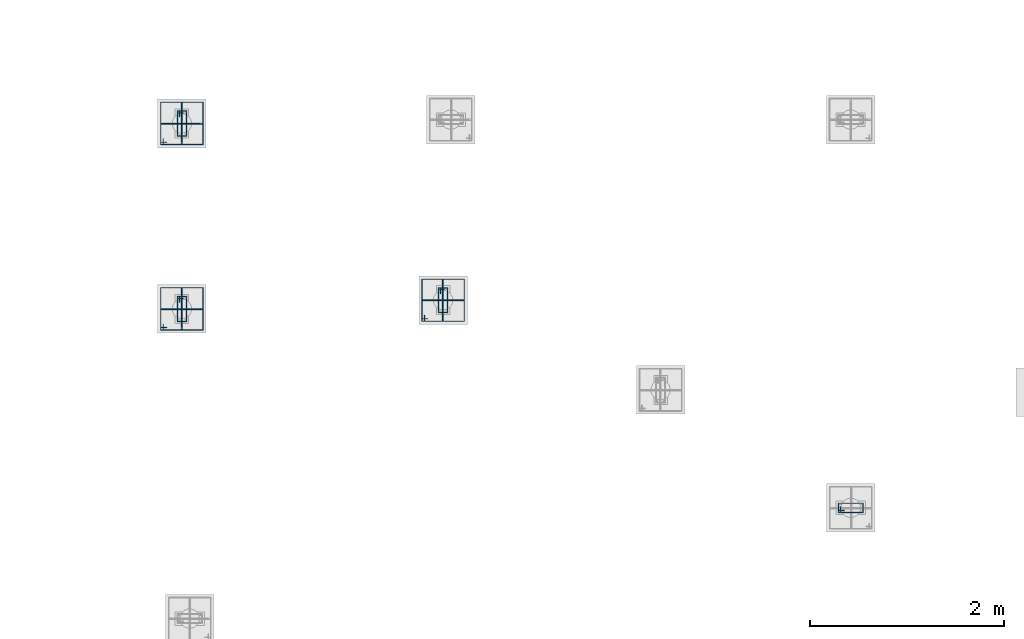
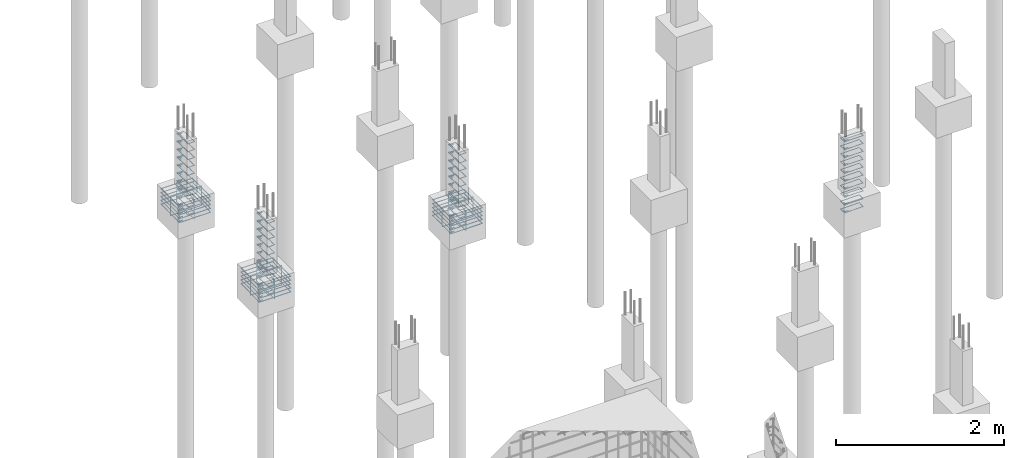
# One storey, part 80 of 119: 61 reinforcing bars.
"""IFC4 building model written with IfcOpenShell, lengths in centimetres."""

from ifc_helpers import new_model, entity, si_unit, derived_unit, frame, origin_with_axes, place, context, project, spatial, source, transform, mapped, element, save


model = new_model("IFC4")

# Units and contexts
model_context = context("Model", 3, precision=1e-05, world=origin_with_axes(), identifier="Body")
ifc_project = project(units=[si_unit("LENGTHUNIT", "METRE", prefix="CENTI"), si_unit("VOLUMEUNIT", "CUBIC_METRE"), si_unit("AREAUNIT", "SQUARE_METRE"), si_unit("POWERUNIT", "WATT"), si_unit("LUMINOUSFLUXUNIT", "LUMEN"), si_unit("ELECTRICCURRENTUNIT", "AMPERE"), si_unit("PRESSUREUNIT", "PASCAL", prefix="KILO"), si_unit("MASSUNIT", "GRAM", prefix="KILO"), si_unit("PLANEANGLEUNIT", "RADIAN"), derived_unit("VOLUMETRICFLOWRATEUNIT", [(si_unit("LENGTHUNIT", "METRE"), 3), (si_unit("TIMEUNIT", "SECOND"), -1)])], contexts=[model_context])

# Site, building, storey
site_placement = place(None, frame((-4000.0, 0.0, 0.0), z_axis=(0.0, 0.0, 1.0), x_axis=(1.0, 0.0, 0.0)))
site = spatial("IfcSite", under=ifc_project, at=site_placement, Name="PADRÃO")
building_placement = place(site_placement, frame((0.0, 0.0, -14.0)))
building = spatial("IfcBuilding", under=site, at=building_placement, Name="CRECHE PRÉ-ESCOLA TIPO 2")
storey_placement = place(building_placement, origin_with_axes())
storey = spatial("IfcBuildingStorey", under=building, at=storey_placement, Name="FUNDAÇÃO", CompositionType="ELEMENT", Elevation=-14.0)

# Reinforcing bars
shared_shape_1 = source(origin_with_axes(), model_context, "Body", "AdvancedSweptSolid", [
    entity("IfcSweptDiskSolid", entity("IfcCompositeCurve", [entity("IfcCompositeCurveSegment", "CONTINUOUS", True, entity("IfcPolyline", [entity("IfcCartesianPoint", [4.25, 21.75, 0.0]), entity("IfcCartesianPoint", [4.25, 27.75, 0.0])])), entity("IfcCompositeCurveSegment", "CONTINUOUS", True, entity("IfcPolyline", [entity("IfcCartesianPoint", [4.25, 27.75, 0.0]), entity("IfcCartesianPoint", [2.25, 27.75, 0.0])])), entity("IfcCompositeCurveSegment", "CONTINUOUS", True, entity("IfcPolyline", [entity("IfcCartesianPoint", [2.25, 27.75, 0.0]), entity("IfcCartesianPoint", [2.25, 2.25, 0.0])])), entity("IfcCompositeCurveSegment", "CONTINUOUS", True, entity("IfcPolyline", [entity("IfcCartesianPoint", [2.25, 2.25, 0.0]), entity("IfcCartesianPoint", [11.75, 2.25, 0.0])])), entity("IfcCompositeCurveSegment", "CONTINUOUS", True, entity("IfcPolyline", [entity("IfcCartesianPoint", [11.75, 2.25, 0.0]), entity("IfcCartesianPoint", [11.75, 27.75, -0.5])])), entity("IfcCompositeCurveSegment", "CONTINUOUS", True, entity("IfcPolyline", [entity("IfcCartesianPoint", [11.75, 27.75, -0.5]), entity("IfcCartesianPoint", [2.25, 27.75, -0.5])])), entity("IfcCompositeCurveSegment", "CONTINUOUS", True, entity("IfcPolyline", [entity("IfcCartesianPoint", [2.25, 27.75, -0.5]), entity("IfcCartesianPoint", [2.25, 25.75, -0.5])])), entity("IfcCompositeCurveSegment", "CONTINUOUS", True, entity("IfcPolyline", [entity("IfcCartesianPoint", [2.25, 25.75, -0.5]), entity("IfcCartesianPoint", [8.25, 25.75, -0.5])]))], False), 0.25),
])
for number, where, z_axis, x_axis, name in (
    (1, (2247.49, 1008.51, -97.75), (0.0, 0.0, 1.0), (1.0, 0.0, 0.0), "P121 - Estribo"),
    (2, (2247.49, 1008.51, -74.75), (0.0, 0.0, 1.0), (1.0, 0.0, 0.0), "P121 - Estribo"),
    (3, (2247.49, 1008.51, -5.75), (0.0, 0.0, 1.0), (1.0, 0.0, 0.0), "P121 - Estribo"),
    (4, (2247.49, 1008.51, -63.25), (0.0, 0.0, 1.0), (1.0, 0.0, 0.0), "P121 - Estribo"),
    (5, (2247.49, 1008.51, -109.25), (0.0, 0.0, 1.0), (1.0, 0.0, 0.0), "P121 - Estribo"),
    (6, (2247.49, 1008.51, -86.25), (0.0, 0.0, 1.0), (1.0, 0.0, 0.0), "P121 - Estribo"),
    (7, (2247.49, 1008.51, -51.75), (0.0, 0.0, 1.0), (1.0, 0.0, 0.0), "P121 - Estribo"),
    (8, (2247.49, 1008.51, -17.25), (0.0, 0.0, 1.0), (1.0, 0.0, 0.0), "P121 - Estribo"),
    (9, (2247.49, 1008.51, -40.25), (0.0, 0.0, 1.0), (1.0, 0.0, 0.0), "P121 - Estribo"),
    (10, (2247.49, 1008.51, -28.75), (0.0, 0.0, 1.0), (1.0, 0.0, 0.0), "P121 - Estribo"),
):
    element("IfcReinforcingBar", number, at=place(storey_placement, frame(where, z_axis=z_axis, x_axis=x_axis)), inside=storey, Name=name, BarLength=0.0, CrossSectionArea=1.9634954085e-05, NominalDiameter=0.5, PredefinedType="MAIN", context=model_context, shape_type="MappedRepresentation", body=[
        mapped(shared_shape_1, transform((0.0, 0.0, 0.0), scale=1.0)),
    ])
shared_shape_2 = source(origin_with_axes(), model_context, "Body", "AdvancedSweptSolid", [
    entity("IfcSweptDiskSolid", entity("IfcCompositeCurve", [entity("IfcCompositeCurveSegment", "CONTINUOUS", True, entity("IfcPolyline", [entity("IfcCartesianPoint", [2239.065, 1004.345, 0.0]), entity("IfcCartesianPoint", [2232.805, 1004.345, 0.0])])), entity("IfcCompositeCurveSegment", "CONTINUOUS", True, entity("IfcPolyline", [entity("IfcCartesianPoint", [2232.805, 1004.345, 0.0]), entity("IfcCartesianPoint", [2232.805, 1001.825, 0.0])])), entity("IfcCompositeCurveSegment", "CONTINUOUS", True, entity("IfcPolyline", [entity("IfcCartesianPoint", [2232.805, 1001.825, 0.0]), entity("IfcCartesianPoint", [2276.175, 1001.825, 0.0])])), entity("IfcCompositeCurveSegment", "CONTINUOUS", True, entity("IfcPolyline", [entity("IfcCartesianPoint", [2276.175, 1001.825, 0.0]), entity("IfcCartesianPoint", [2276.175, 1045.195, 0.63])])), entity("IfcCompositeCurveSegment", "CONTINUOUS", True, entity("IfcPolyline", [entity("IfcCartesianPoint", [2276.175, 1045.195, 0.63]), entity("IfcCartesianPoint", [2232.805, 1045.195, 0.63])])), entity("IfcCompositeCurveSegment", "CONTINUOUS", True, entity("IfcPolyline", [entity("IfcCartesianPoint", [2232.805, 1045.195, 0.63]), entity("IfcCartesianPoint", [2232.805, 1001.825, 0.63])])), entity("IfcCompositeCurveSegment", "CONTINUOUS", True, entity("IfcPolyline", [entity("IfcCartesianPoint", [2232.805, 1001.825, 0.63]), entity("IfcCartesianPoint", [2235.325, 1001.825, 0.63])])), entity("IfcCompositeCurveSegment", "CONTINUOUS", True, entity("IfcPolyline", [entity("IfcCartesianPoint", [2235.325, 1001.825, 0.63]), entity("IfcCartesianPoint", [2235.325, 1008.085, 0.63])]))], False), 0.315),
])
for number, where, z_axis, x_axis, name in (
    (11, (0.0, 0.0, -109.175), (0.0, 0.0, 1.0), (1.0, 0.0, 0.0), "P121 - Blocos (estribos)"),
    (12, (0.0, 0.0, -103.525), (0.0, 0.0, 1.0), (1.0, 0.0, 0.0), "P121 - Blocos (estribos)"),
    (13, (0.0, 0.0, -97.875), (0.0, 0.0, 1.0), (1.0, 0.0, 0.0), "P121 - Blocos (estribos)"),
    (14, (0.0, 0.0, -92.225), (0.0, 0.0, 1.0), (1.0, 0.0, 0.0), "P121 - Blocos (estribos)"),
    (15, (0.0, 0.0, -86.575), (0.0, 0.0, 1.0), (1.0, 0.0, 0.0), "P121 - Blocos (estribos)"),
):
    element("IfcReinforcingBar", number, at=place(storey_placement, frame(where, z_axis=z_axis, x_axis=x_axis)), inside=storey, Name=name, BarLength=0.0, CrossSectionArea=3.1172453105e-05, NominalDiameter=0.63, PredefinedType="MAIN", context=model_context, shape_type="MappedRepresentation", body=[
        mapped(shared_shape_2, transform((0.0, 0.0, 0.0), scale=1.0)),
    ])
shared_shape_3 = source(origin_with_axes(), model_context, "Body", "AdvancedSweptSolid", [
    entity("IfcSweptDiskSolid", entity("IfcCompositeCurve", [entity("IfcCompositeCurveSegment", "CONTINUOUS", True, entity("IfcPolyline", [entity("IfcCartesianPoint", [-15.12, -12.0, 0.0]), entity("IfcCartesianPoint", [-21.12, -12.0, 0.0])])), entity("IfcCompositeCurveSegment", "CONTINUOUS", True, entity("IfcPolyline", [entity("IfcCartesianPoint", [-21.12, -12.0, 0.0]), entity("IfcCartesianPoint", [-21.12, -14.0, 0.0])])), entity("IfcCompositeCurveSegment", "CONTINUOUS", True, entity("IfcPolyline", [entity("IfcCartesianPoint", [-21.12, -14.0, 0.0]), entity("IfcCartesianPoint", [21.12, -14.0, 0.0])])), entity("IfcCompositeCurveSegment", "CONTINUOUS", True, entity("IfcPolyline", [entity("IfcCartesianPoint", [21.12, -14.0, 0.0]), entity("IfcCartesianPoint", [21.12, 14.0, 0.5])])), entity("IfcCompositeCurveSegment", "CONTINUOUS", True, entity("IfcPolyline", [entity("IfcCartesianPoint", [21.12, 14.0, 0.5]), entity("IfcCartesianPoint", [-21.12, 14.0, 0.5])])), entity("IfcCompositeCurveSegment", "CONTINUOUS", True, entity("IfcPolyline", [entity("IfcCartesianPoint", [-21.12, 14.0, 0.5]), entity("IfcCartesianPoint", [-21.12, -14.0, 0.5])])), entity("IfcCompositeCurveSegment", "CONTINUOUS", True, entity("IfcPolyline", [entity("IfcCartesianPoint", [-21.12, -14.0, 0.5]), entity("IfcCartesianPoint", [-19.12, -14.0, 0.5])])), entity("IfcCompositeCurveSegment", "CONTINUOUS", True, entity("IfcPolyline", [entity("IfcCartesianPoint", [-19.12, -14.0, 0.5]), entity("IfcCartesianPoint", [-19.12, -8.0, 0.5])]))], False), 0.25),
])
reinforcing_bar_1_placement = place(storey_placement, frame((2254.49, 1023.51, -97.75), z_axis=(-1.0, 0.0, 0.0), x_axis=(0.0, 1.0, 0.0)))
element("IfcReinforcingBar", 16, at=reinforcing_bar_1_placement, inside=storey, Name="P121 - Blocos (estribos)", BarLength=0.0, CrossSectionArea=1.9634954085e-05, NominalDiameter=0.5, PredefinedType="MAIN", context=model_context, shape_type="MappedRepresentation", body=[
    mapped(shared_shape_3, transform((0.0, 0.0, 0.0), scale=1.0)),
])
shared_shape_4 = source(origin_with_axes(), model_context, "Body", "AdvancedSweptSolid", [
    entity("IfcSweptDiskSolid", entity("IfcCompositeCurve", [entity("IfcCompositeCurveSegment", "CONTINUOUS", True, entity("IfcPolyline", [entity("IfcCartesianPoint", [-15.12, -12.0, 0.0]), entity("IfcCartesianPoint", [-21.12, -12.0, 0.0])])), entity("IfcCompositeCurveSegment", "CONTINUOUS", True, entity("IfcPolyline", [entity("IfcCartesianPoint", [-21.12, -12.0, 0.0]), entity("IfcCartesianPoint", [-21.12, -14.0, 0.0])])), entity("IfcCompositeCurveSegment", "CONTINUOUS", True, entity("IfcPolyline", [entity("IfcCartesianPoint", [-21.12, -14.0, 0.0]), entity("IfcCartesianPoint", [21.12, -14.0, 0.0])])), entity("IfcCompositeCurveSegment", "CONTINUOUS", True, entity("IfcPolyline", [entity("IfcCartesianPoint", [21.12, -14.0, 0.0]), entity("IfcCartesianPoint", [21.12, 14.0, 0.5])])), entity("IfcCompositeCurveSegment", "CONTINUOUS", True, entity("IfcPolyline", [entity("IfcCartesianPoint", [21.12, 14.0, 0.5]), entity("IfcCartesianPoint", [-21.12, 14.0, 0.5])])), entity("IfcCompositeCurveSegment", "CONTINUOUS", True, entity("IfcPolyline", [entity("IfcCartesianPoint", [-21.12, 14.0, 0.5]), entity("IfcCartesianPoint", [-21.12, -14.0, 0.5])])), entity("IfcCompositeCurveSegment", "CONTINUOUS", True, entity("IfcPolyline", [entity("IfcCartesianPoint", [-21.12, -14.0, 0.5]), entity("IfcCartesianPoint", [-19.12, -14.0, 0.5])])), entity("IfcCompositeCurveSegment", "CONTINUOUS", True, entity("IfcPolyline", [entity("IfcCartesianPoint", [-19.12, -14.0, 0.5]), entity("IfcCartesianPoint", [-19.12, -8.0, 0.5])]))], False), 0.25),
])
reinforcing_bar_2_placement = place(storey_placement, frame((2254.49, 1023.51, -97.75), z_axis=(0.0, -1.0, 0.0), x_axis=(-1.0, 0.0, 0.0)))
element("IfcReinforcingBar", 17, at=reinforcing_bar_2_placement, inside=storey, Name="P121 - Blocos (estribos)", BarLength=0.0, CrossSectionArea=1.9634954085e-05, NominalDiameter=0.5, PredefinedType="MAIN", context=model_context, shape_type="MappedRepresentation", body=[
    mapped(shared_shape_4, transform((0.0, 0.0, 0.0), scale=1.0)),
])
shared_shape_5 = source(origin_with_axes(), model_context, "Body", "AdvancedSweptSolid", [
    entity("IfcSweptDiskSolid", entity("IfcCompositeCurve", [entity("IfcCompositeCurveSegment", "CONTINUOUS", True, entity("IfcPolyline", [entity("IfcCartesianPoint", [4.25, 21.75, 0.0]), entity("IfcCartesianPoint", [4.25, 27.75, 0.0])])), entity("IfcCompositeCurveSegment", "CONTINUOUS", True, entity("IfcPolyline", [entity("IfcCartesianPoint", [4.25, 27.75, 0.0]), entity("IfcCartesianPoint", [2.25, 27.75, 0.0])])), entity("IfcCompositeCurveSegment", "CONTINUOUS", True, entity("IfcPolyline", [entity("IfcCartesianPoint", [2.25, 27.75, 0.0]), entity("IfcCartesianPoint", [2.25, 2.25, 0.0])])), entity("IfcCompositeCurveSegment", "CONTINUOUS", True, entity("IfcPolyline", [entity("IfcCartesianPoint", [2.25, 2.25, 0.0]), entity("IfcCartesianPoint", [11.75, 2.25, 0.0])])), entity("IfcCompositeCurveSegment", "CONTINUOUS", True, entity("IfcPolyline", [entity("IfcCartesianPoint", [11.75, 2.25, 0.0]), entity("IfcCartesianPoint", [11.75, 27.75, -0.5])])), entity("IfcCompositeCurveSegment", "CONTINUOUS", True, entity("IfcPolyline", [entity("IfcCartesianPoint", [11.75, 27.75, -0.5]), entity("IfcCartesianPoint", [2.25, 27.75, -0.5])])), entity("IfcCompositeCurveSegment", "CONTINUOUS", True, entity("IfcPolyline", [entity("IfcCartesianPoint", [2.25, 27.75, -0.5]), entity("IfcCartesianPoint", [2.25, 25.75, -0.5])])), entity("IfcCompositeCurveSegment", "CONTINUOUS", True, entity("IfcPolyline", [entity("IfcCartesianPoint", [2.25, 25.75, -0.5]), entity("IfcCartesianPoint", [8.25, 25.75, -0.5])]))], False), 0.25),
])
for number, where, z_axis, x_axis, name in (
    (18, (2958.45, 620.58, -74.75), (0.0, 0.0, 1.0), (0.0, 1.0, 0.0), "P134 - Estribo"),
    (19, (2958.45, 620.58, -86.25), (0.0, 0.0, 1.0), (0.0, 1.0, 0.0), "P134 - Estribo"),
    (20, (2958.45, 620.58, -109.25), (0.0, 0.0, 1.0), (0.0, 1.0, 0.0), "P134 - Estribo"),
    (21, (2958.45, 620.58, -97.75), (0.0, 0.0, 1.0), (0.0, 1.0, 0.0), "P134 - Estribo"),
    (22, (2958.45, 620.58, -51.75), (0.0, 0.0, 1.0), (0.0, 1.0, 0.0), "P134 - Estribo"),
    (23, (2958.45, 620.58, -40.25), (0.0, 0.0, 1.0), (0.0, 1.0, 0.0), "P134 - Estribo"),
    (24, (2958.45, 620.58, -28.75), (0.0, 0.0, 1.0), (0.0, 1.0, 0.0), "P134 - Estribo"),
    (25, (2958.45, 620.58, -5.75), (0.0, 0.0, 1.0), (0.0, 1.0, 0.0), "P134 - Estribo"),
    (26, (2958.45, 620.58, -17.25), (0.0, 0.0, 1.0), (0.0, 1.0, 0.0), "P134 - Estribo"),
    (27, (2958.45, 620.58, -63.25), (0.0, 0.0, 1.0), (0.0, 1.0, 0.0), "P134 - Estribo"),
):
    element("IfcReinforcingBar", number, at=place(storey_placement, frame(where, z_axis=z_axis, x_axis=x_axis)), inside=storey, Name=name, BarLength=0.0, CrossSectionArea=1.9634954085e-05, NominalDiameter=0.5, PredefinedType="MAIN", context=model_context, shape_type="MappedRepresentation", body=[
        mapped(shared_shape_5, transform((0.0, 0.0, 0.0), scale=1.0)),
    ])
shared_shape_6 = source(origin_with_axes(), model_context, "Body", "AdvancedSweptSolid", [
    entity("IfcSweptDiskSolid", entity("IfcCompositeCurve", [entity("IfcCompositeCurveSegment", "CONTINUOUS", True, entity("IfcPolyline", [entity("IfcCartesianPoint", [4.25, 21.75, 0.0]), entity("IfcCartesianPoint", [4.25, 27.75, 0.0])])), entity("IfcCompositeCurveSegment", "CONTINUOUS", True, entity("IfcPolyline", [entity("IfcCartesianPoint", [4.25, 27.75, 0.0]), entity("IfcCartesianPoint", [2.25, 27.75, 0.0])])), entity("IfcCompositeCurveSegment", "CONTINUOUS", True, entity("IfcPolyline", [entity("IfcCartesianPoint", [2.25, 27.75, 0.0]), entity("IfcCartesianPoint", [2.25, 2.25, 0.0])])), entity("IfcCompositeCurveSegment", "CONTINUOUS", True, entity("IfcPolyline", [entity("IfcCartesianPoint", [2.25, 2.25, 0.0]), entity("IfcCartesianPoint", [11.75, 2.25, 0.0])])), entity("IfcCompositeCurveSegment", "CONTINUOUS", True, entity("IfcPolyline", [entity("IfcCartesianPoint", [11.75, 2.25, 0.0]), entity("IfcCartesianPoint", [11.75, 27.75, -0.5])])), entity("IfcCompositeCurveSegment", "CONTINUOUS", True, entity("IfcPolyline", [entity("IfcCartesianPoint", [11.75, 27.75, -0.5]), entity("IfcCartesianPoint", [2.25, 27.75, -0.5])])), entity("IfcCompositeCurveSegment", "CONTINUOUS", True, entity("IfcPolyline", [entity("IfcCartesianPoint", [2.25, 27.75, -0.5]), entity("IfcCartesianPoint", [2.25, 25.75, -0.5])])), entity("IfcCompositeCurveSegment", "CONTINUOUS", True, entity("IfcPolyline", [entity("IfcCartesianPoint", [2.25, 25.75, -0.5]), entity("IfcCartesianPoint", [8.25, 25.75, -0.5])]))], False), 0.25),
])
for number, where, z_axis, x_axis, name in (
    (28, (2516.5, 826.52, -5.75), (0.0, 0.0, 1.0), (1.0, 0.0, 0.0), "P129 - Estribo"),
    (29, (2516.5, 826.52, -17.25), (0.0, 0.0, 1.0), (1.0, 0.0, 0.0), "P129 - Estribo"),
    (30, (2516.5, 826.52, -28.75), (0.0, 0.0, 1.0), (1.0, 0.0, 0.0), "P129 - Estribo"),
    (31, (2516.5, 826.52, -40.25), (0.0, 0.0, 1.0), (1.0, 0.0, 0.0), "P129 - Estribo"),
    (32, (2516.5, 826.52, -74.75), (0.0, 0.0, 1.0), (1.0, 0.0, 0.0), "P129 - Estribo"),
    (33, (2516.5, 826.52, -86.25), (0.0, 0.0, 1.0), (1.0, 0.0, 0.0), "P129 - Estribo"),
    (34, (2516.5, 826.52, -97.75), (0.0, 0.0, 1.0), (1.0, 0.0, 0.0), "P129 - Estribo"),
    (35, (2516.5, 826.52, -109.25), (0.0, 0.0, 1.0), (1.0, 0.0, 0.0), "P129 - Estribo"),
    (36, (2516.5, 826.52, -51.75), (0.0, 0.0, 1.0), (1.0, 0.0, 0.0), "P129 - Estribo"),
    (37, (2516.5, 826.52, -63.25), (0.0, 0.0, 1.0), (1.0, 0.0, 0.0), "P129 - Estribo"),
):
    element("IfcReinforcingBar", number, at=place(storey_placement, frame(where, z_axis=z_axis, x_axis=x_axis)), inside=storey, Name=name, BarLength=0.0, CrossSectionArea=1.9634954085e-05, NominalDiameter=0.5, PredefinedType="MAIN", context=model_context, shape_type="MappedRepresentation", body=[
        mapped(shared_shape_6, transform((0.0, 0.0, 0.0), scale=1.0)),
    ])
shared_shape_7 = source(origin_with_axes(), model_context, "Body", "AdvancedSweptSolid", [
    entity("IfcSweptDiskSolid", entity("IfcCompositeCurve", [entity("IfcCompositeCurveSegment", "CONTINUOUS", True, entity("IfcPolyline", [entity("IfcCartesianPoint", [2508.075, 822.355, 0.0]), entity("IfcCartesianPoint", [2501.815, 822.355, 0.0])])), entity("IfcCompositeCurveSegment", "CONTINUOUS", True, entity("IfcPolyline", [entity("IfcCartesianPoint", [2501.815, 822.355, 0.0]), entity("IfcCartesianPoint", [2501.815, 819.835, 0.0])])), entity("IfcCompositeCurveSegment", "CONTINUOUS", True, entity("IfcPolyline", [entity("IfcCartesianPoint", [2501.815, 819.835, 0.0]), entity("IfcCartesianPoint", [2545.185, 819.835, 0.0])])), entity("IfcCompositeCurveSegment", "CONTINUOUS", True, entity("IfcPolyline", [entity("IfcCartesianPoint", [2545.185, 819.835, 0.0]), entity("IfcCartesianPoint", [2545.185, 863.205, 0.63])])), entity("IfcCompositeCurveSegment", "CONTINUOUS", True, entity("IfcPolyline", [entity("IfcCartesianPoint", [2545.185, 863.205, 0.63]), entity("IfcCartesianPoint", [2501.815, 863.205, 0.63])])), entity("IfcCompositeCurveSegment", "CONTINUOUS", True, entity("IfcPolyline", [entity("IfcCartesianPoint", [2501.815, 863.205, 0.63]), entity("IfcCartesianPoint", [2501.815, 819.835, 0.63])])), entity("IfcCompositeCurveSegment", "CONTINUOUS", True, entity("IfcPolyline", [entity("IfcCartesianPoint", [2501.815, 819.835, 0.63]), entity("IfcCartesianPoint", [2504.335, 819.835, 0.63])])), entity("IfcCompositeCurveSegment", "CONTINUOUS", True, entity("IfcPolyline", [entity("IfcCartesianPoint", [2504.335, 819.835, 0.63]), entity("IfcCartesianPoint", [2504.335, 826.095, 0.63])]))], False), 0.315),
])
for number, where, z_axis, x_axis, name in (
    (38, (0.0, 0.0, -92.225), (0.0, 0.0, 1.0), (1.0, 0.0, 0.0), "P129 - Blocos (estribos)"),
    (39, (0.0, 0.0, -86.575), (0.0, 0.0, 1.0), (1.0, 0.0, 0.0), "P129 - Blocos (estribos)"),
    (40, (0.0, 0.0, -109.175), (0.0, 0.0, 1.0), (1.0, 0.0, 0.0), "P129 - Blocos (estribos)"),
    (41, (0.0, 0.0, -103.525), (0.0, 0.0, 1.0), (1.0, 0.0, 0.0), "P129 - Blocos (estribos)"),
    (42, (0.0, 0.0, -97.875), (0.0, 0.0, 1.0), (1.0, 0.0, 0.0), "P129 - Blocos (estribos)"),
):
    element("IfcReinforcingBar", number, at=place(storey_placement, frame(where, z_axis=z_axis, x_axis=x_axis)), inside=storey, Name=name, BarLength=0.0, CrossSectionArea=3.1172453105e-05, NominalDiameter=0.63, PredefinedType="MAIN", context=model_context, shape_type="MappedRepresentation", body=[
        mapped(shared_shape_7, transform((0.0, 0.0, 0.0), scale=1.0)),
    ])
shared_shape_8 = source(origin_with_axes(), model_context, "Body", "AdvancedSweptSolid", [
    entity("IfcSweptDiskSolid", entity("IfcCompositeCurve", [entity("IfcCompositeCurveSegment", "CONTINUOUS", True, entity("IfcPolyline", [entity("IfcCartesianPoint", [-15.12, -12.0, 0.0]), entity("IfcCartesianPoint", [-21.12, -12.0, 0.0])])), entity("IfcCompositeCurveSegment", "CONTINUOUS", True, entity("IfcPolyline", [entity("IfcCartesianPoint", [-21.12, -12.0, 0.0]), entity("IfcCartesianPoint", [-21.12, -14.0, 0.0])])), entity("IfcCompositeCurveSegment", "CONTINUOUS", True, entity("IfcPolyline", [entity("IfcCartesianPoint", [-21.12, -14.0, 0.0]), entity("IfcCartesianPoint", [21.12, -14.0, 0.0])])), entity("IfcCompositeCurveSegment", "CONTINUOUS", True, entity("IfcPolyline", [entity("IfcCartesianPoint", [21.12, -14.0, 0.0]), entity("IfcCartesianPoint", [21.12, 14.0, 0.5])])), entity("IfcCompositeCurveSegment", "CONTINUOUS", True, entity("IfcPolyline", [entity("IfcCartesianPoint", [21.12, 14.0, 0.5]), entity("IfcCartesianPoint", [-21.12, 14.0, 0.5])])), entity("IfcCompositeCurveSegment", "CONTINUOUS", True, entity("IfcPolyline", [entity("IfcCartesianPoint", [-21.12, 14.0, 0.5]), entity("IfcCartesianPoint", [-21.12, -14.0, 0.5])])), entity("IfcCompositeCurveSegment", "CONTINUOUS", True, entity("IfcPolyline", [entity("IfcCartesianPoint", [-21.12, -14.0, 0.5]), entity("IfcCartesianPoint", [-19.12, -14.0, 0.5])])), entity("IfcCompositeCurveSegment", "CONTINUOUS", True, entity("IfcPolyline", [entity("IfcCartesianPoint", [-19.12, -14.0, 0.5]), entity("IfcCartesianPoint", [-19.12, -8.0, 0.5])]))], False), 0.25),
])
reinforcing_bar_3_placement = place(storey_placement, frame((2523.5, 841.52, -97.75), z_axis=(-1.0, 0.0, 0.0), x_axis=(0.0, 1.0, 0.0)))
element("IfcReinforcingBar", 43, at=reinforcing_bar_3_placement, inside=storey, Name="P129 - Blocos (estribos)", BarLength=0.0, CrossSectionArea=1.9634954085e-05, NominalDiameter=0.5, PredefinedType="MAIN", context=model_context, shape_type="MappedRepresentation", body=[
    mapped(shared_shape_8, transform((0.0, 0.0, 0.0), scale=1.0)),
])
shared_shape_9 = source(origin_with_axes(), model_context, "Body", "AdvancedSweptSolid", [
    entity("IfcSweptDiskSolid", entity("IfcCompositeCurve", [entity("IfcCompositeCurveSegment", "CONTINUOUS", True, entity("IfcPolyline", [entity("IfcCartesianPoint", [-15.12, -12.0, 0.0]), entity("IfcCartesianPoint", [-21.12, -12.0, 0.0])])), entity("IfcCompositeCurveSegment", "CONTINUOUS", True, entity("IfcPolyline", [entity("IfcCartesianPoint", [-21.12, -12.0, 0.0]), entity("IfcCartesianPoint", [-21.12, -14.0, 0.0])])), entity("IfcCompositeCurveSegment", "CONTINUOUS", True, entity("IfcPolyline", [entity("IfcCartesianPoint", [-21.12, -14.0, 0.0]), entity("IfcCartesianPoint", [21.12, -14.0, 0.0])])), entity("IfcCompositeCurveSegment", "CONTINUOUS", True, entity("IfcPolyline", [entity("IfcCartesianPoint", [21.12, -14.0, 0.0]), entity("IfcCartesianPoint", [21.12, 14.0, 0.5])])), entity("IfcCompositeCurveSegment", "CONTINUOUS", True, entity("IfcPolyline", [entity("IfcCartesianPoint", [21.12, 14.0, 0.5]), entity("IfcCartesianPoint", [-21.12, 14.0, 0.5])])), entity("IfcCompositeCurveSegment", "CONTINUOUS", True, entity("IfcPolyline", [entity("IfcCartesianPoint", [-21.12, 14.0, 0.5]), entity("IfcCartesianPoint", [-21.12, -14.0, 0.5])])), entity("IfcCompositeCurveSegment", "CONTINUOUS", True, entity("IfcPolyline", [entity("IfcCartesianPoint", [-21.12, -14.0, 0.5]), entity("IfcCartesianPoint", [-19.12, -14.0, 0.5])])), entity("IfcCompositeCurveSegment", "CONTINUOUS", True, entity("IfcPolyline", [entity("IfcCartesianPoint", [-19.12, -14.0, 0.5]), entity("IfcCartesianPoint", [-19.12, -8.0, 0.5])]))], False), 0.25),
])
reinforcing_bar_4_placement = place(storey_placement, frame((2523.5, 841.52, -97.75), z_axis=(0.0, -1.0, 0.0), x_axis=(-1.0, 0.0, 0.0)))
element("IfcReinforcingBar", 44, at=reinforcing_bar_4_placement, inside=storey, Name="P129 - Blocos (estribos)", BarLength=0.0, CrossSectionArea=1.9634954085e-05, NominalDiameter=0.5, PredefinedType="MAIN", context=model_context, shape_type="MappedRepresentation", body=[
    mapped(shared_shape_9, transform((0.0, 0.0, 0.0), scale=1.0)),
])
shared_shape_10 = source(origin_with_axes(), model_context, "Body", "AdvancedSweptSolid", [
    entity("IfcSweptDiskSolid", entity("IfcCompositeCurve", [entity("IfcCompositeCurveSegment", "CONTINUOUS", True, entity("IfcPolyline", [entity("IfcCartesianPoint", [4.25, 21.75, 0.0]), entity("IfcCartesianPoint", [4.25, 27.75, 0.0])])), entity("IfcCompositeCurveSegment", "CONTINUOUS", True, entity("IfcPolyline", [entity("IfcCartesianPoint", [4.25, 27.75, 0.0]), entity("IfcCartesianPoint", [2.25, 27.75, 0.0])])), entity("IfcCompositeCurveSegment", "CONTINUOUS", True, entity("IfcPolyline", [entity("IfcCartesianPoint", [2.25, 27.75, 0.0]), entity("IfcCartesianPoint", [2.25, 2.25, 0.0])])), entity("IfcCompositeCurveSegment", "CONTINUOUS", True, entity("IfcPolyline", [entity("IfcCartesianPoint", [2.25, 2.25, 0.0]), entity("IfcCartesianPoint", [11.75, 2.25, 0.0])])), entity("IfcCompositeCurveSegment", "CONTINUOUS", True, entity("IfcPolyline", [entity("IfcCartesianPoint", [11.75, 2.25, 0.0]), entity("IfcCartesianPoint", [11.75, 27.75, -0.5])])), entity("IfcCompositeCurveSegment", "CONTINUOUS", True, entity("IfcPolyline", [entity("IfcCartesianPoint", [11.75, 27.75, -0.5]), entity("IfcCartesianPoint", [2.25, 27.75, -0.5])])), entity("IfcCompositeCurveSegment", "CONTINUOUS", True, entity("IfcPolyline", [entity("IfcCartesianPoint", [2.25, 27.75, -0.5]), entity("IfcCartesianPoint", [2.25, 25.75, -0.5])])), entity("IfcCompositeCurveSegment", "CONTINUOUS", True, entity("IfcPolyline", [entity("IfcCartesianPoint", [2.25, 25.75, -0.5]), entity("IfcCartesianPoint", [8.25, 25.75, -0.5])]))], False), 0.25),
])
for number, where, z_axis, x_axis, name in (
    (45, (2247.49, 817.52, -109.25), (0.0, 0.0, 1.0), (1.0, 0.0, 0.0), "P128 - Estribo"),
    (46, (2247.49, 817.52, -97.75), (0.0, 0.0, 1.0), (1.0, 0.0, 0.0), "P128 - Estribo"),
    (47, (2247.49, 817.52, -86.25), (0.0, 0.0, 1.0), (1.0, 0.0, 0.0), "P128 - Estribo"),
    (48, (2247.49, 817.52, -74.75), (0.0, 0.0, 1.0), (1.0, 0.0, 0.0), "P128 - Estribo"),
    (49, (2247.49, 817.52, -63.25), (0.0, 0.0, 1.0), (1.0, 0.0, 0.0), "P128 - Estribo"),
    (50, (2247.49, 817.52, -51.75), (0.0, 0.0, 1.0), (1.0, 0.0, 0.0), "P128 - Estribo"),
    (51, (2247.49, 817.52, -40.25), (0.0, 0.0, 1.0), (1.0, 0.0, 0.0), "P128 - Estribo"),
    (52, (2247.49, 817.52, -17.25), (0.0, 0.0, 1.0), (1.0, 0.0, 0.0), "P128 - Estribo"),
    (53, (2247.49, 817.52, -5.75), (0.0, 0.0, 1.0), (1.0, 0.0, 0.0), "P128 - Estribo"),
    (54, (2247.49, 817.52, -28.75), (0.0, 0.0, 1.0), (1.0, 0.0, 0.0), "P128 - Estribo"),
):
    element("IfcReinforcingBar", number, at=place(storey_placement, frame(where, z_axis=z_axis, x_axis=x_axis)), inside=storey, Name=name, BarLength=0.0, CrossSectionArea=1.9634954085e-05, NominalDiameter=0.5, PredefinedType="MAIN", context=model_context, shape_type="MappedRepresentation", body=[
        mapped(shared_shape_10, transform((0.0, 0.0, 0.0), scale=1.0)),
    ])
shared_shape_11 = source(origin_with_axes(), model_context, "Body", "AdvancedSweptSolid", [
    entity("IfcSweptDiskSolid", entity("IfcCompositeCurve", [entity("IfcCompositeCurveSegment", "CONTINUOUS", True, entity("IfcPolyline", [entity("IfcCartesianPoint", [2239.065, 813.355, 0.0]), entity("IfcCartesianPoint", [2232.805, 813.355, 0.0])])), entity("IfcCompositeCurveSegment", "CONTINUOUS", True, entity("IfcPolyline", [entity("IfcCartesianPoint", [2232.805, 813.355, 0.0]), entity("IfcCartesianPoint", [2232.805, 810.835, 0.0])])), entity("IfcCompositeCurveSegment", "CONTINUOUS", True, entity("IfcPolyline", [entity("IfcCartesianPoint", [2232.805, 810.835, 0.0]), entity("IfcCartesianPoint", [2276.175, 810.835, 0.0])])), entity("IfcCompositeCurveSegment", "CONTINUOUS", True, entity("IfcPolyline", [entity("IfcCartesianPoint", [2276.175, 810.835, 0.0]), entity("IfcCartesianPoint", [2276.175, 854.205, 0.63])])), entity("IfcCompositeCurveSegment", "CONTINUOUS", True, entity("IfcPolyline", [entity("IfcCartesianPoint", [2276.175, 854.205, 0.63]), entity("IfcCartesianPoint", [2232.805, 854.205, 0.63])])), entity("IfcCompositeCurveSegment", "CONTINUOUS", True, entity("IfcPolyline", [entity("IfcCartesianPoint", [2232.805, 854.205, 0.63]), entity("IfcCartesianPoint", [2232.805, 810.835, 0.63])])), entity("IfcCompositeCurveSegment", "CONTINUOUS", True, entity("IfcPolyline", [entity("IfcCartesianPoint", [2232.805, 810.835, 0.63]), entity("IfcCartesianPoint", [2235.325, 810.835, 0.63])])), entity("IfcCompositeCurveSegment", "CONTINUOUS", True, entity("IfcPolyline", [entity("IfcCartesianPoint", [2235.325, 810.835, 0.63]), entity("IfcCartesianPoint", [2235.325, 817.095, 0.63])]))], False), 0.315),
])
for number, where, z_axis, x_axis, name in (
    (55, (0.0, 0.0, -109.175), (0.0, 0.0, 1.0), (1.0, 0.0, 0.0), "P128 - Blocos (estribos)"),
    (56, (0.0, 0.0, -103.525), (0.0, 0.0, 1.0), (1.0, 0.0, 0.0), "P128 - Blocos (estribos)"),
    (57, (0.0, 0.0, -97.875), (0.0, 0.0, 1.0), (1.0, 0.0, 0.0), "P128 - Blocos (estribos)"),
    (58, (0.0, 0.0, -92.225), (0.0, 0.0, 1.0), (1.0, 0.0, 0.0), "P128 - Blocos (estribos)"),
    (59, (0.0, 0.0, -86.575), (0.0, 0.0, 1.0), (1.0, 0.0, 0.0), "P128 - Blocos (estribos)"),
):
    element("IfcReinforcingBar", number, at=place(storey_placement, frame(where, z_axis=z_axis, x_axis=x_axis)), inside=storey, Name=name, BarLength=0.0, CrossSectionArea=3.1172453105e-05, NominalDiameter=0.63, PredefinedType="MAIN", context=model_context, shape_type="MappedRepresentation", body=[
        mapped(shared_shape_11, transform((0.0, 0.0, 0.0), scale=1.0)),
    ])
shared_shape_12 = source(origin_with_axes(), model_context, "Body", "AdvancedSweptSolid", [
    entity("IfcSweptDiskSolid", entity("IfcCompositeCurve", [entity("IfcCompositeCurveSegment", "CONTINUOUS", True, entity("IfcPolyline", [entity("IfcCartesianPoint", [-15.12, -12.0, 0.0]), entity("IfcCartesianPoint", [-21.12, -12.0, 0.0])])), entity("IfcCompositeCurveSegment", "CONTINUOUS", True, entity("IfcPolyline", [entity("IfcCartesianPoint", [-21.12, -12.0, 0.0]), entity("IfcCartesianPoint", [-21.12, -14.0, 0.0])])), entity("IfcCompositeCurveSegment", "CONTINUOUS", True, entity("IfcPolyline", [entity("IfcCartesianPoint", [-21.12, -14.0, 0.0]), entity("IfcCartesianPoint", [21.12, -14.0, 0.0])])), entity("IfcCompositeCurveSegment", "CONTINUOUS", True, entity("IfcPolyline", [entity("IfcCartesianPoint", [21.12, -14.0, 0.0]), entity("IfcCartesianPoint", [21.12, 14.0, 0.5])])), entity("IfcCompositeCurveSegment", "CONTINUOUS", True, entity("IfcPolyline", [entity("IfcCartesianPoint", [21.12, 14.0, 0.5]), entity("IfcCartesianPoint", [-21.12, 14.0, 0.5])])), entity("IfcCompositeCurveSegment", "CONTINUOUS", True, entity("IfcPolyline", [entity("IfcCartesianPoint", [-21.12, 14.0, 0.5]), entity("IfcCartesianPoint", [-21.12, -14.0, 0.5])])), entity("IfcCompositeCurveSegment", "CONTINUOUS", True, entity("IfcPolyline", [entity("IfcCartesianPoint", [-21.12, -14.0, 0.5]), entity("IfcCartesianPoint", [-19.12, -14.0, 0.5])])), entity("IfcCompositeCurveSegment", "CONTINUOUS", True, entity("IfcPolyline", [entity("IfcCartesianPoint", [-19.12, -14.0, 0.5]), entity("IfcCartesianPoint", [-19.12, -8.0, 0.5])]))], False), 0.25),
])
reinforcing_bar_5_placement = place(storey_placement, frame((2254.49, 832.52, -97.75), z_axis=(-1.0, 0.0, 0.0), x_axis=(0.0, 1.0, 0.0)))
element("IfcReinforcingBar", 60, at=reinforcing_bar_5_placement, inside=storey, Name="P128 - Blocos (estribos)", BarLength=0.0, CrossSectionArea=1.9634954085e-05, NominalDiameter=0.5, PredefinedType="MAIN", context=model_context, shape_type="MappedRepresentation", body=[
    mapped(shared_shape_12, transform((0.0, 0.0, 0.0), scale=1.0)),
])
shared_shape_13 = source(origin_with_axes(), model_context, "Body", "AdvancedSweptSolid", [
    entity("IfcSweptDiskSolid", entity("IfcCompositeCurve", [entity("IfcCompositeCurveSegment", "CONTINUOUS", True, entity("IfcPolyline", [entity("IfcCartesianPoint", [-15.12, -12.0, 0.0]), entity("IfcCartesianPoint", [-21.12, -12.0, 0.0])])), entity("IfcCompositeCurveSegment", "CONTINUOUS", True, entity("IfcPolyline", [entity("IfcCartesianPoint", [-21.12, -12.0, 0.0]), entity("IfcCartesianPoint", [-21.12, -14.0, 0.0])])), entity("IfcCompositeCurveSegment", "CONTINUOUS", True, entity("IfcPolyline", [entity("IfcCartesianPoint", [-21.12, -14.0, 0.0]), entity("IfcCartesianPoint", [21.12, -14.0, 0.0])])), entity("IfcCompositeCurveSegment", "CONTINUOUS", True, entity("IfcPolyline", [entity("IfcCartesianPoint", [21.12, -14.0, 0.0]), entity("IfcCartesianPoint", [21.12, 14.0, 0.5])])), entity("IfcCompositeCurveSegment", "CONTINUOUS", True, entity("IfcPolyline", [entity("IfcCartesianPoint", [21.12, 14.0, 0.5]), entity("IfcCartesianPoint", [-21.12, 14.0, 0.5])])), entity("IfcCompositeCurveSegment", "CONTINUOUS", True, entity("IfcPolyline", [entity("IfcCartesianPoint", [-21.12, 14.0, 0.5]), entity("IfcCartesianPoint", [-21.12, -14.0, 0.5])])), entity("IfcCompositeCurveSegment", "CONTINUOUS", True, entity("IfcPolyline", [entity("IfcCartesianPoint", [-21.12, -14.0, 0.5]), entity("IfcCartesianPoint", [-19.12, -14.0, 0.5])])), entity("IfcCompositeCurveSegment", "CONTINUOUS", True, entity("IfcPolyline", [entity("IfcCartesianPoint", [-19.12, -14.0, 0.5]), entity("IfcCartesianPoint", [-19.12, -8.0, 0.5])]))], False), 0.25),
])
reinforcing_bar_6_placement = place(storey_placement, frame((2254.49, 832.52, -97.75), z_axis=(0.0, -1.0, 0.0), x_axis=(-1.0, 0.0, 0.0)))
element("IfcReinforcingBar", 61, at=reinforcing_bar_6_placement, inside=storey, Name="P128 - Blocos (estribos)", BarLength=0.0, CrossSectionArea=1.9634954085e-05, NominalDiameter=0.5, PredefinedType="MAIN", context=model_context, shape_type="MappedRepresentation", body=[
    mapped(shared_shape_13, transform((0.0, 0.0, 0.0), scale=1.0)),
])

save(model, "model.ifc")
